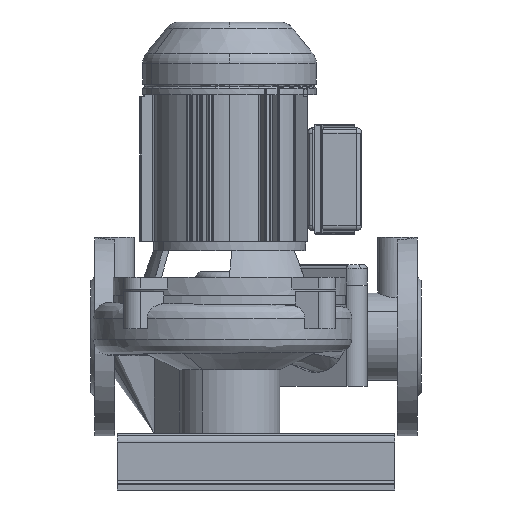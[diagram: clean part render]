
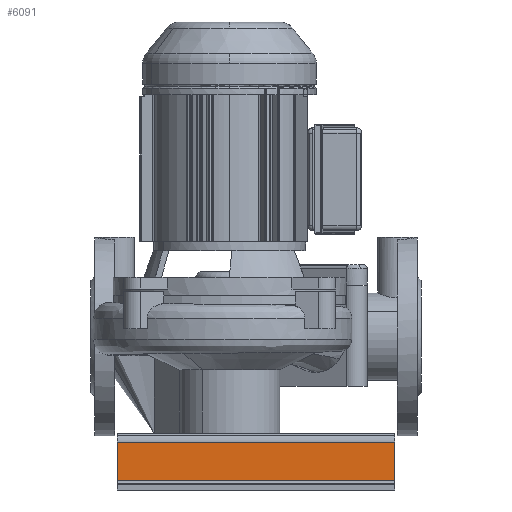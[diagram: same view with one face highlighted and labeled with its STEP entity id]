
A CAD part, left-side view. The second image highlights one B-rep face of the part: STEP entity #6091.
In plain terms, the highlighted planar face has unit normal (-1, 0, 0).
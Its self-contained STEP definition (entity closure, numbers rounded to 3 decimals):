
#6091=ADVANCED_FACE('',(#12907),#12908,.T.);
#6203=EDGE_CURVE('',#13104,#13107,#13108,.T.);
#6265=EDGE_CURVE('',#13189,#13104,#13190,.T.);
#6267=EDGE_CURVE('',#13192,#13189,#13193,.T.);
#6269=EDGE_CURVE('',#13192,#13107,#13195,.T.);
#12907=FACE_OUTER_BOUND('',#25516,.T.);
#12908=PLANE('',#25517);
#13104=VERTEX_POINT('',#25750);
#13107=VERTEX_POINT('',#25754);
#13108=LINE('',#25755,#25756);
#13189=VERTEX_POINT('',#25879);
#13190=LINE('',#25880,#25881);
#13192=VERTEX_POINT('',#25884);
#13193=LINE('',#25885,#25886);
#13195=LINE('',#25889,#25890);
#25516=EDGE_LOOP('',(#37357,#37358,#37359,#37360));
#25517=AXIS2_PLACEMENT_3D('',#37361,#37362,#37363);
#25750=CARTESIAN_POINT('',(-66.0,36.0,0.0));
#25754=CARTESIAN_POINT('',(-66.0,36.0,210.0));
#25755=CARTESIAN_POINT('',(-66.0,36.0,0.0));
#25756=VECTOR('',#37702,1.0);
#25879=CARTESIAN_POINT('',(-66.0,7.0,0.0));
#25880=CARTESIAN_POINT('',(-66.0,7.0,0.0));
#25881=VECTOR('',#37771,1.0);
#25884=CARTESIAN_POINT('',(-66.0,7.0,210.0));
#25885=CARTESIAN_POINT('',(-66.0,7.0,210.0));
#25886=VECTOR('',#37772,1.0);
#25889=CARTESIAN_POINT('',(-66.0,7.0,210.0));
#25890=VECTOR('',#37773,1.0);
#37357=ORIENTED_EDGE('',*,*,#6203,.F.);
#37358=ORIENTED_EDGE('',*,*,#6265,.F.);
#37359=ORIENTED_EDGE('',*,*,#6267,.F.);
#37360=ORIENTED_EDGE('',*,*,#6269,.T.);
#37361=CARTESIAN_POINT('',(-66.0,4.0,0.0));
#37362=DIRECTION('',(-1.0,0.0,0.0));
#37363=DIRECTION('',(0.0,-0.0,1.0));
#37702=DIRECTION('',(0.0,0.0,1.0));
#37771=DIRECTION('',(0.0,1.0,0.0));
#37772=DIRECTION('',(0.0,0.0,-1.0));
#37773=DIRECTION('',(0.0,1.0,0.0));
